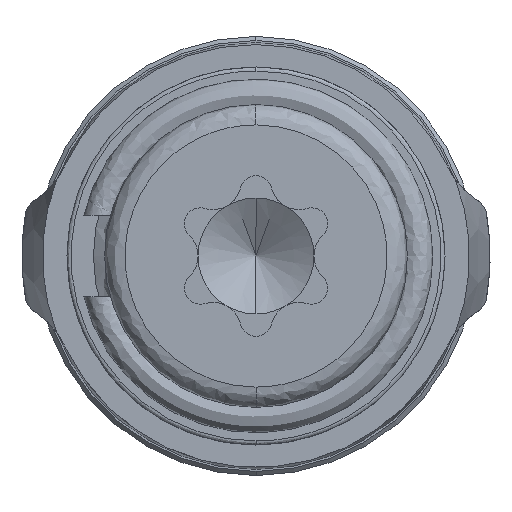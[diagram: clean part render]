
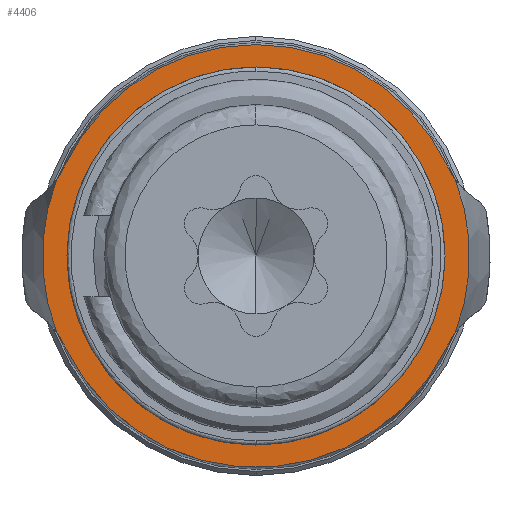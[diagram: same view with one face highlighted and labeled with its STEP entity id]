
A CAD part, front view. The second image highlights one B-rep face of the part: STEP entity #4406.
In plain terms, the highlighted planar face has unit normal (0, -1, 0).
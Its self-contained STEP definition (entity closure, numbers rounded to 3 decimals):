
#62 = CARTESIAN_POINT ( 'NONE',  ( 0., 10.05, 0. ) ) ;
#76 = DIRECTION ( 'NONE',  ( 0., 1., 0. ) ) ;
#84 = DIRECTION ( 'NONE',  ( 0., 0., 1. ) ) ;
#126 = EDGE_CURVE ( 'NONE', #1245, #1443, #2240, .T. ) ;
#203 = CIRCLE ( 'NONE', #4627, 4.65 ) ;
#207 = DIRECTION ( 'NONE',  ( 0., 0., -1. ) ) ;
#229 = AXIS2_PLACEMENT_3D ( 'NONE', #907, #4517, #1826 ) ;
#460 = CARTESIAN_POINT ( 'NONE',  ( -4.903, 10.05, -1.882 ) ) ;
#462 = AXIS2_PLACEMENT_3D ( 'NONE', #62, #76, #84 ) ;
#478 = CARTESIAN_POINT ( 'NONE',  ( -6.514, 10.05, -3.067 ) ) ;
#485 = DIRECTION ( 'NONE',  ( 0., 1., 0. ) ) ;
#493 = DIRECTION ( 'NONE',  ( 0., 0., 1. ) ) ;
#537 = CIRCLE ( 'NONE', #1213, 2. ) ;
#700 = EDGE_CURVE ( 'NONE', #5085, #2647, #537, .T. ) ;
#730 = ORIENTED_EDGE ( 'NONE', *, *, #1231, .T. ) ;
#901 = CARTESIAN_POINT ( 'NONE',  ( -6.514, 10.05, 3.067 ) ) ;
#907 = CARTESIAN_POINT ( 'NONE',  ( 0., 10.05, 0. ) ) ;
#1005 = CARTESIAN_POINT ( 'NONE',  ( -4.705, 10.05, 2.215 ) ) ;
#1111 = CARTESIAN_POINT ( 'NONE',  ( 0., 10.05, 0. ) ) ;
#1112 = FACE_OUTER_BOUND ( 'NONE', #5571, .T. ) ;
#1114 = DIRECTION ( 'NONE',  ( 0., 1., 0. ) ) ;
#1123 = DIRECTION ( 'NONE',  ( 0., 0., 1. ) ) ;
#1182 = CARTESIAN_POINT ( 'NONE',  ( -4.903, 10.05, 1.882 ) ) ;
#1213 = AXIS2_PLACEMENT_3D ( 'NONE', #2878, #2886, #4423 ) ;
#1226 = AXIS2_PLACEMENT_3D ( 'NONE', #3876, #3401, #3381 ) ;
#1231 = EDGE_CURVE ( 'NONE', #1245, #2891, #4559, .T. ) ;
#1245 = VERTEX_POINT ( 'NONE', #460 ) ;
#1275 = CARTESIAN_POINT ( 'NONE',  ( -4.705, 10.05, -2.215 ) ) ;
#1331 = CIRCLE ( 'NONE', #5603, 4.65 ) ;
#1404 = EDGE_CURVE ( 'NONE', #3247, #2683, #4536, .T. ) ;
#1407 = AXIS2_PLACEMENT_3D ( 'NONE', #478, #485, #493 ) ;
#1423 = VERTEX_POINT ( 'NONE', #1005 ) ;
#1443 = VERTEX_POINT ( 'NONE', #1182 ) ;
#1491 = ORIENTED_EDGE ( 'NONE', *, *, #5581, .T. ) ;
#1497 = AXIS2_PLACEMENT_3D ( 'NONE', #2979, #5323, #5593 ) ;
#1568 = EDGE_CURVE ( 'NONE', #2647, #4001, #2630, .T. ) ;
#1672 = CIRCLE ( 'NONE', #4045, 5.2 ) ;
#1737 = DIRECTION ( 'NONE',  ( 0., 0., 1. ) ) ;
#1744 = AXIS2_PLACEMENT_3D ( 'NONE', #1111, #1114, #1123 ) ;
#1756 = VERTEX_POINT ( 'NONE', #1872 ) ;
#1767 = CARTESIAN_POINT ( 'NONE',  ( 0., 10.05, 0. ) ) ;
#1826 = DIRECTION ( 'NONE',  ( 0., 0., -1. ) ) ;
#1844 = ORIENTED_EDGE ( 'NONE', *, *, #2211, .F. ) ;
#1846 = CIRCLE ( 'NONE', #5530, 2. ) ;
#1872 = CARTESIAN_POINT ( 'NONE',  ( 0., 10.05, -4.65 ) ) ;
#1949 = FACE_BOUND ( 'NONE', #2382, .T. ) ;
#2017 = CARTESIAN_POINT ( 'NONE',  ( 0., 10.05, 4.65 ) ) ;
#2034 = EDGE_CURVE ( 'NONE', #5085, #2891, #1672, .T. ) ;
#2183 = PLANE ( 'NONE',  #229 ) ;
#2206 = CARTESIAN_POINT ( 'NONE',  ( 4.705, 10.05, 2.215 ) ) ;
#2211 = EDGE_CURVE ( 'NONE', #1423, #3247, #3750, .T. ) ;
#2240 = CIRCLE ( 'NONE', #462, 5.252 ) ;
#2290 = CARTESIAN_POINT ( 'NONE',  ( 4.903, 10.05, -1.882 ) ) ;
#2309 = CARTESIAN_POINT ( 'NONE',  ( 0., 10.05, 0. ) ) ;
#2382 = EDGE_LOOP ( 'NONE', ( #5441, #3487 ) ) ;
#2442 = DIRECTION ( 'NONE',  ( 0., -1., 0. ) ) ;
#2630 = CIRCLE ( 'NONE', #1226, 5.252 ) ;
#2647 = VERTEX_POINT ( 'NONE', #2290 ) ;
#2683 = VERTEX_POINT ( 'NONE', #2206 ) ;
#2785 = ORIENTED_EDGE ( 'NONE', *, *, #2034, .F. ) ;
#2789 = ORIENTED_EDGE ( 'NONE', *, *, #1404, .F. ) ;
#2878 = CARTESIAN_POINT ( 'NONE',  ( 6.514, 10.05, -3.067 ) ) ;
#2886 = DIRECTION ( 'NONE',  ( 0., 1., 0. ) ) ;
#2891 = VERTEX_POINT ( 'NONE', #1275 ) ;
#2979 = CARTESIAN_POINT ( 'NONE',  ( 6.514, 10.05, 3.067 ) ) ;
#3247 = VERTEX_POINT ( 'NONE', #4888 ) ;
#3327 = AXIS2_PLACEMENT_3D ( 'NONE', #5198, #5194, #5186 ) ;
#3366 = DIRECTION ( 'NONE',  ( 0., -1., 0. ) ) ;
#3381 = DIRECTION ( 'NONE',  ( 0., 0., 1. ) ) ;
#3382 = EDGE_CURVE ( 'NONE', #4413, #1756, #203, .T. ) ;
#3401 = DIRECTION ( 'NONE',  ( 0., -1., 0. ) ) ;
#3487 = ORIENTED_EDGE ( 'NONE', *, *, #3382, .F. ) ;
#3750 = CIRCLE ( 'NONE', #3327, 5.2 ) ;
#3833 = CARTESIAN_POINT ( 'NONE',  ( 4.903, 10.05, 1.882 ) ) ;
#3849 = EDGE_CURVE ( 'NONE', #4001, #2683, #5409, .T. ) ;
#3857 = CARTESIAN_POINT ( 'NONE',  ( 0., 10.05, 0. ) ) ;
#3863 = DIRECTION ( 'NONE',  ( 0., 1., 0. ) ) ;
#3866 = DIRECTION ( 'NONE',  ( 0., 0., 1. ) ) ;
#3876 = CARTESIAN_POINT ( 'NONE',  ( 0., 10.05, 0. ) ) ;
#4001 = VERTEX_POINT ( 'NONE', #3833 ) ;
#4045 = AXIS2_PLACEMENT_3D ( 'NONE', #3857, #3863, #3866 ) ;
#4319 = DIRECTION ( 'NONE',  ( 0., 0., -1. ) ) ;
#4340 = CARTESIAN_POINT ( 'NONE',  ( 4.705, 10.05, -2.215 ) ) ;
#4377 = ORIENTED_EDGE ( 'NONE', *, *, #126, .F. ) ;
#4406 = ADVANCED_FACE ( 'NONE', ( #1112, #1949 ), #2183, .T. ) ;
#4413 = VERTEX_POINT ( 'NONE', #2017 ) ;
#4423 = DIRECTION ( 'NONE',  ( 0., 0., 1. ) ) ;
#4517 = DIRECTION ( 'NONE',  ( 0., -1., 0. ) ) ;
#4536 = CIRCLE ( 'NONE', #1744, 5.2 ) ;
#4559 = CIRCLE ( 'NONE', #1407, 2. ) ;
#4619 = ORIENTED_EDGE ( 'NONE', *, *, #3849, .T. ) ;
#4627 = AXIS2_PLACEMENT_3D ( 'NONE', #2309, #2442, #207 ) ;
#4655 = ORIENTED_EDGE ( 'NONE', *, *, #700, .T. ) ;
#4685 = ORIENTED_EDGE ( 'NONE', *, *, #1568, .T. ) ;
#4753 = EDGE_CURVE ( 'NONE', #1756, #4413, #1331, .T. ) ;
#4888 = CARTESIAN_POINT ( 'NONE',  ( 0., 10.05, 5.2 ) ) ;
#5085 = VERTEX_POINT ( 'NONE', #4340 ) ;
#5136 = DIRECTION ( 'NONE',  ( 0., 1., 0. ) ) ;
#5186 = DIRECTION ( 'NONE',  ( 0., 0., 1. ) ) ;
#5194 = DIRECTION ( 'NONE',  ( 0., 1., 0. ) ) ;
#5198 = CARTESIAN_POINT ( 'NONE',  ( 0., 10.05, 0. ) ) ;
#5323 = DIRECTION ( 'NONE',  ( 0., 1., 0. ) ) ;
#5409 = CIRCLE ( 'NONE', #1497, 2. ) ;
#5441 = ORIENTED_EDGE ( 'NONE', *, *, #4753, .F. ) ;
#5530 = AXIS2_PLACEMENT_3D ( 'NONE', #901, #5136, #1737 ) ;
#5571 = EDGE_LOOP ( 'NONE', ( #1844, #1491, #4377, #730, #2785, #4655, #4685, #4619, #2789 ) ) ;
#5581 = EDGE_CURVE ( 'NONE', #1423, #1443, #1846, .T. ) ;
#5593 = DIRECTION ( 'NONE',  ( 0., 0., 1. ) ) ;
#5603 = AXIS2_PLACEMENT_3D ( 'NONE', #1767, #3366, #4319 ) ;
